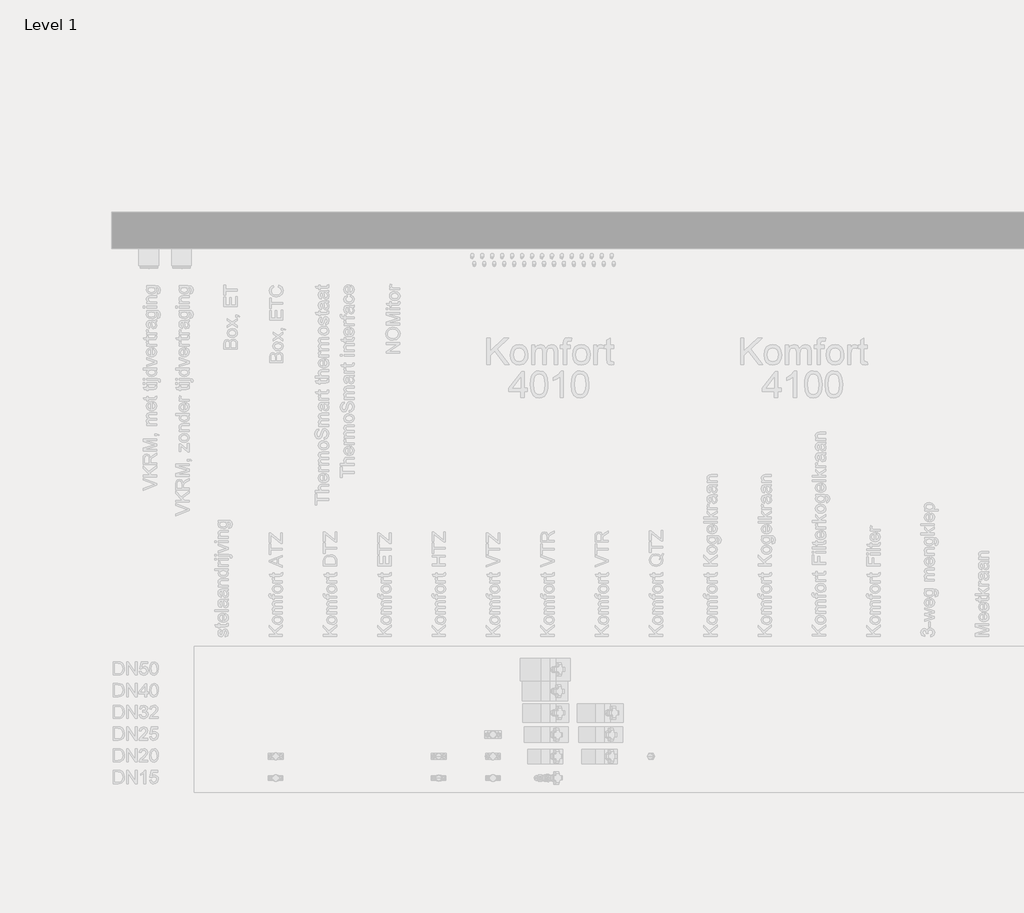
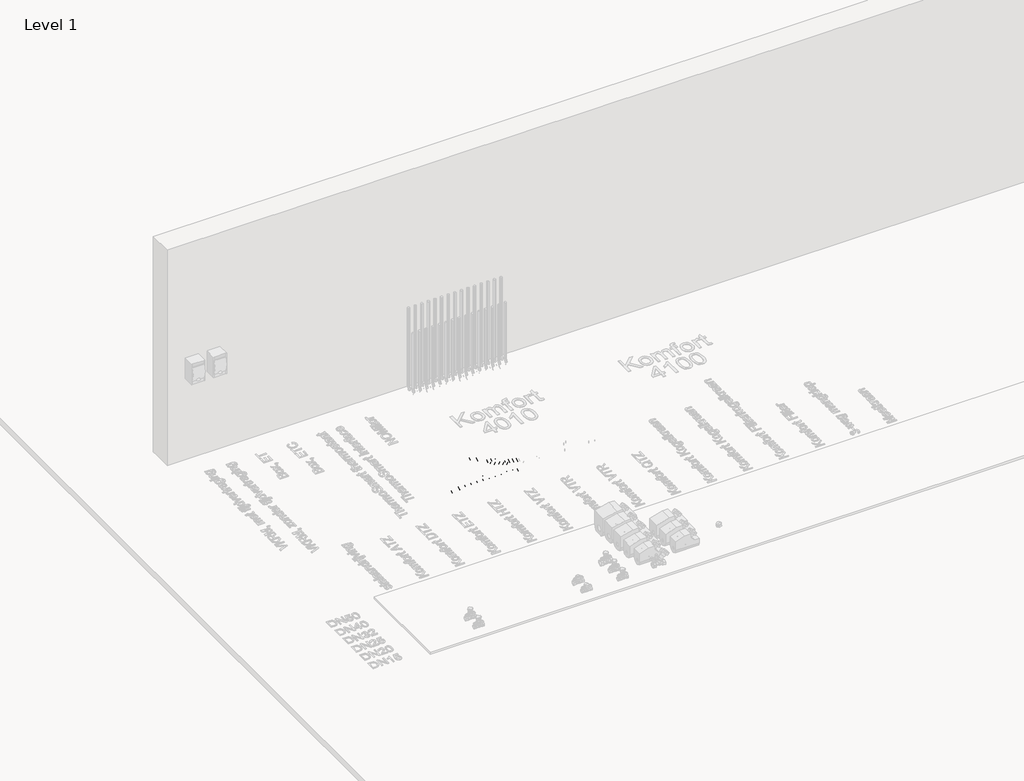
# One storey, part 2 of 34: 37 pipe segments, 24 pipe fittings.
"""IFC4 building model written with IfcOpenShell, lengths in millimetres."""

from ifc_helpers import new_model, si_unit, point, frame, frame_2d, origin, place, context, project, spatial, circle_curve, trimmed, segment, composite_curve, outline, extrude, transform, mapped, element, save
from components import comfort_pipe_plus_56b5b84a, comfort_pipe_plus_f781b332, comfort_pipe_plus_8c37c2e0, comfort_pipe_plus_1347b288, comfort_pipe_plus_f00eb310, comfort_pipe_plus_6c5c0cc0, comfort_pipe_plus_d926dcd2, comfort_pipe_plus_850c115f, comfort_pipe_plus_079da7db, comfort_pipe_plus_1f8f520a, comfort_pipe_plus_755e7ea2, comfort_pipe_plus_4085d028, comfort_pipe_plus_581880cc

model = new_model("IFC4")

# Units and contexts
model_context = context("Model", 3, world=origin())
ifc_project = project(units=[si_unit("LENGTHUNIT", "METRE", prefix="MILLI")], contexts=[model_context])

# Site, building, storey
site = spatial("IfcSite", under=ifc_project)
building = spatial("IfcBuilding", under=site)
storey = spatial("IfcBuildingStorey", under=building, Name="Level 1", Elevation=0.0)

# Pipe fittings
placement = place(None, origin())
comfort_pipe_plus_shape = comfort_pipe_plus_56b5b84a(model_context)
element("IfcPipeFitting", 1, ObjectType="400_5-_Uponor_curved_Elbow : Comfort pipe PLUS", at=placement, inside=storey, context=model_context, shape_type="MappedRepresentation", body=[
    mapped(comfort_pipe_plus_shape, transform((-15605.7349522, 6355.7502784, -40.0), x_axis=(0.0, 1.0, 0.0), y_axis=(-1.0, 0.0, 0.0), z_axis=(0.0, 0.0, 1.0))),
])
element("IfcPipeFitting", 2, ObjectType="400_5-_Uponor_curved_Elbow : Comfort pipe PLUS", at=placement, inside=storey, context=model_context, shape_type="MappedRepresentation", body=[
    mapped(comfort_pipe_plus_shape, transform((-15279.4849522, 6605.7502784, -40.0), x_axis=(0.0, -1.0, 0.0), y_axis=(1.0, 0.0, 0.0), z_axis=(0.0, 0.0, 1.0))),
])
comfort_pipe_plus_2_shape = comfort_pipe_plus_f781b332(model_context)
element("IfcPipeFitting", 3, ObjectType="400_5-_Uponor_curved_Elbow : Comfort pipe PLUS", at=placement, inside=storey, context=model_context, shape_type="MappedRepresentation", body=[
    mapped(comfort_pipe_plus_2_shape, transform((-15005.7349522, 6355.7502784, -40.0), x_axis=(0.0, 1.0, 0.0), y_axis=(-1.0, 0.0, 0.0), z_axis=(0.0, 0.0, 1.0))),
])
comfort_pipe_plus_3_shape = comfort_pipe_plus_8c37c2e0(model_context)
element("IfcPipeFitting", 4, ObjectType="400_5-_Uponor_curved_Elbow : Comfort pipe PLUS", at=placement, inside=storey, context=model_context, shape_type="MappedRepresentation", body=[
    mapped(comfort_pipe_plus_3_shape, transform((-15055.7349522, 6355.7502784, -40.0), x_axis=(0.0, 1.0, 0.0), y_axis=(-1.0, 0.0, 0.0), z_axis=(0.0, 0.0, 1.0))),
])
comfort_pipe_plus_4_shape = comfort_pipe_plus_1347b288(model_context)
element("IfcPipeFitting", 5, ObjectType="400_5-_Uponor_curved_Elbow : Comfort pipe PLUS", at=placement, inside=storey, context=model_context, shape_type="MappedRepresentation", body=[
    mapped(comfort_pipe_plus_4_shape, transform((-15105.7349522, 6355.7502784, -40.0), x_axis=(0.0, 1.0, 0.0), y_axis=(-1.0, 0.0, 0.0), z_axis=(0.0, 0.0, 1.0))),
])
element("IfcPipeFitting", 6, ObjectType="400_5-_Uponor_curved_Elbow : Comfort pipe PLUS", at=placement, inside=storey, context=model_context, shape_type="MappedRepresentation", body=[
    mapped(comfort_pipe_plus_4_shape, transform((-15004.4849522, 6421.386906, -40.0), x_axis=(0.0, -1.0, 0.0), y_axis=(1.0, 0.0, 0.0), z_axis=(0.0, 0.0, 1.0))),
])
comfort_pipe_plus_5_shape = comfort_pipe_plus_f00eb310(model_context)
element("IfcPipeFitting", 7, ObjectType="400_5-_Uponor_curved_Elbow : Comfort pipe PLUS", at=placement, inside=storey, context=model_context, shape_type="MappedRepresentation", body=[
    mapped(comfort_pipe_plus_5_shape, transform((-15155.7349522, 6355.7502784, -40.0), x_axis=(0.0, 1.0, 0.0), y_axis=(-1.0, 0.0, 0.0), z_axis=(0.0, 0.0, 1.0))),
])
element("IfcPipeFitting", 8, ObjectType="400_5-_Uponor_curved_Elbow : Comfort pipe PLUS", at=placement, inside=storey, context=model_context, shape_type="MappedRepresentation", body=[
    mapped(comfort_pipe_plus_5_shape, transform((-15031.9849522, 6429.2989396, -40.0), x_axis=(0.0, -1.0, 0.0), y_axis=(1.0, 0.0, 0.0), z_axis=(0.0, 0.0, 1.0))),
])
comfort_pipe_plus_6_shape = comfort_pipe_plus_6c5c0cc0(model_context)
element("IfcPipeFitting", 9, ObjectType="400_5-_Uponor_curved_Elbow : Comfort pipe PLUS", at=placement, inside=storey, context=model_context, shape_type="MappedRepresentation", body=[
    mapped(comfort_pipe_plus_6_shape, transform((-15205.7349522, 6355.7502784, -40.0), x_axis=(0.0, 1.0, 0.0), y_axis=(-1.0, 0.0, 0.0), z_axis=(0.0, 0.0, 1.0))),
])
element("IfcPipeFitting", 10, ObjectType="400_5-_Uponor_curved_Elbow : Comfort pipe PLUS", at=placement, inside=storey, context=model_context, shape_type="MappedRepresentation", body=[
    mapped(comfort_pipe_plus_6_shape, transform((-15059.4849522, 6438.9713245, -40.0), x_axis=(0.0, -1.0, 0.0), y_axis=(1.0, 0.0, 0.0), z_axis=(0.0, 0.0, 1.0))),
])
comfort_pipe_plus_7_shape = comfort_pipe_plus_d926dcd2(model_context)
element("IfcPipeFitting", 11, ObjectType="400_5-_Uponor_curved_Elbow : Comfort pipe PLUS", at=placement, inside=storey, context=model_context, shape_type="MappedRepresentation", body=[
    mapped(comfort_pipe_plus_7_shape, transform((-15255.7349522, 6355.7502784, -40.0), x_axis=(0.0, 1.0, 0.0), y_axis=(-1.0, 0.0, 0.0), z_axis=(0.0, 0.0, 1.0))),
])
element("IfcPipeFitting", 12, ObjectType="400_5-_Uponor_curved_Elbow : Comfort pipe PLUS", at=placement, inside=storey, context=model_context, shape_type="MappedRepresentation", body=[
    mapped(comfort_pipe_plus_7_shape, transform((-15086.9849522, 6450.516872, -40.0), x_axis=(0.0, -1.0, 0.0), y_axis=(1.0, 0.0, 0.0), z_axis=(0.0, 0.0, 1.0))),
])
comfort_pipe_plus_8_shape = comfort_pipe_plus_850c115f(model_context)
element("IfcPipeFitting", 13, ObjectType="400_5-_Uponor_curved_Elbow : Comfort pipe PLUS", at=placement, inside=storey, context=model_context, shape_type="MappedRepresentation", body=[
    mapped(comfort_pipe_plus_8_shape, transform((-15305.7349522, 6355.7502784, -40.0), x_axis=(0.0, 1.0, 0.0), y_axis=(-1.0, 0.0, 0.0), z_axis=(0.0, 0.0, 1.0))),
])
element("IfcPipeFitting", 14, ObjectType="400_5-_Uponor_curved_Elbow : Comfort pipe PLUS", at=placement, inside=storey, context=model_context, shape_type="MappedRepresentation", body=[
    mapped(comfort_pipe_plus_8_shape, transform((-15114.4849522, 6464.0832905, -40.0), x_axis=(0.0, -1.0, 0.0), y_axis=(1.0, 0.0, 0.0), z_axis=(0.0, 0.0, 1.0))),
])
comfort_pipe_plus_9_shape = comfort_pipe_plus_079da7db(model_context)
element("IfcPipeFitting", 15, ObjectType="400_5-_Uponor_curved_Elbow : Comfort pipe PLUS", at=placement, inside=storey, context=model_context, shape_type="MappedRepresentation", body=[
    mapped(comfort_pipe_plus_9_shape, transform((-15355.7349522, 6355.7502784, -40.0), x_axis=(0.0, 1.0, 0.0), y_axis=(-1.0, 0.0, 0.0), z_axis=(0.0, 0.0, 1.0))),
])
element("IfcPipeFitting", 16, ObjectType="400_5-_Uponor_curved_Elbow : Comfort pipe PLUS", at=placement, inside=storey, context=model_context, shape_type="MappedRepresentation", body=[
    mapped(comfort_pipe_plus_9_shape, transform((-15141.9849522, 6479.8647962, -40.0), x_axis=(0.0, -1.0, 0.0), y_axis=(1.0, 0.0, 0.0), z_axis=(0.0, 0.0, 1.0))),
])
comfort_pipe_plus_10_shape = comfort_pipe_plus_1f8f520a(model_context)
element("IfcPipeFitting", 17, ObjectType="400_5-_Uponor_curved_Elbow : Comfort pipe PLUS", at=placement, inside=storey, context=model_context, shape_type="MappedRepresentation", body=[
    mapped(comfort_pipe_plus_10_shape, transform((-15405.7349522, 6355.7502784, -40.0), x_axis=(0.0, 1.0, 0.0), y_axis=(-1.0, 0.0, 0.0), z_axis=(0.0, 0.0, 1.0))),
])
element("IfcPipeFitting", 18, ObjectType="400_5-_Uponor_curved_Elbow : Comfort pipe PLUS", at=placement, inside=storey, context=model_context, shape_type="MappedRepresentation", body=[
    mapped(comfort_pipe_plus_10_shape, transform((-15169.4849522, 6498.1201645, -40.0), x_axis=(0.0, -1.0, 0.0), y_axis=(1.0, 0.0, 0.0), z_axis=(0.0, 0.0, 1.0))),
])
comfort_pipe_plus_11_shape = comfort_pipe_plus_755e7ea2(model_context)
element("IfcPipeFitting", 19, ObjectType="400_5-_Uponor_curved_Elbow : Comfort pipe PLUS", at=placement, inside=storey, context=model_context, shape_type="MappedRepresentation", body=[
    mapped(comfort_pipe_plus_11_shape, transform((-15455.7349522, 6355.7502784, -40.0), x_axis=(0.0, 1.0, 0.0), y_axis=(-1.0, 0.0, 0.0), z_axis=(0.0, 0.0, 1.0))),
])
element("IfcPipeFitting", 20, ObjectType="400_5-_Uponor_curved_Elbow : Comfort pipe PLUS", at=placement, inside=storey, context=model_context, shape_type="MappedRepresentation", body=[
    mapped(comfort_pipe_plus_11_shape, transform((-15196.9849522, 6519.2020082, -40.0), x_axis=(0.0, -1.0, 0.0), y_axis=(1.0, 0.0, 0.0), z_axis=(0.0, 0.0, 1.0))),
])
comfort_pipe_plus_12_shape = comfort_pipe_plus_4085d028(model_context)
element("IfcPipeFitting", 21, ObjectType="400_5-_Uponor_curved_Elbow : Comfort pipe PLUS", at=placement, inside=storey, context=model_context, shape_type="MappedRepresentation", body=[
    mapped(comfort_pipe_plus_12_shape, transform((-15505.7349522, 6355.7502784, -40.0), x_axis=(0.0, 1.0, 0.0), y_axis=(-1.0, 0.0, 0.0), z_axis=(0.0, 0.0, 1.0))),
])
element("IfcPipeFitting", 22, ObjectType="400_5-_Uponor_curved_Elbow : Comfort pipe PLUS", at=placement, inside=storey, context=model_context, shape_type="MappedRepresentation", body=[
    mapped(comfort_pipe_plus_12_shape, transform((-15224.4849522, 6543.6070322, -40.0), x_axis=(0.0, -1.0, 0.0), y_axis=(1.0, 0.0, 0.0), z_axis=(0.0, 0.0, 1.0))),
])
comfort_pipe_plus_13_shape = comfort_pipe_plus_581880cc(model_context)
element("IfcPipeFitting", 23, ObjectType="400_5-_Uponor_curved_Elbow : Comfort pipe PLUS", at=placement, inside=storey, context=model_context, shape_type="MappedRepresentation", body=[
    mapped(comfort_pipe_plus_13_shape, transform((-15555.7349522, 6355.7502784, -40.0), x_axis=(0.0, 1.0, 0.0), y_axis=(-1.0, 0.0, 0.0), z_axis=(0.0, 0.0, 1.0))),
])
element("IfcPipeFitting", 24, ObjectType="400_5-_Uponor_curved_Elbow : Comfort pipe PLUS", at=placement, inside=storey, context=model_context, shape_type="MappedRepresentation", body=[
    mapped(comfort_pipe_plus_13_shape, transform((-15251.9849522, 6572.0690789, -40.0), x_axis=(0.0, -1.0, 0.0), y_axis=(1.0, 0.0, 0.0), z_axis=(0.0, 0.0, 1.0))),
])

# Pipe segments
element("IfcPipeSegment", 25, ObjectType="Uponor Comfort Pipe PLUS / VVL", at=placement, inside=storey, context=model_context, shape_type="SweptSolid", body=[
    extrude(outline(composite_curve([segment(trimmed(circle_curve(frame_2d((-40.0, -14866.9849522)), 8.5), [point((-40.0, -14875.4849522))], [point((-48.5, -14866.9849522))], False, "CARTESIAN"), True, "CONTINUOUS"), segment(trimmed(circle_curve(frame_2d((-40.0, -14866.9849522)), 8.5), [point((-48.5, -14866.9849522))], [point((-40.0, -14858.4849522))], False, "CARTESIAN"), True, "CONTINUOUS"), segment(trimmed(circle_curve(frame_2d((-40.0, -14866.9849522)), 8.5), [point((-40.0, -14858.4849522))], [point((-31.5, -14866.9849522))], False, "CARTESIAN"), True, "CONTINUOUS"), segment(trimmed(circle_curve(frame_2d((-40.0, -14866.9849522)), 8.5), [point((-31.5, -14866.9849522))], [point((-40.0, -14875.4849522))], False, "CARTESIAN"), True, "CONTINUOUS")], self_intersect=False)), frame((0.0, 6413.6893669, 0.0), z_axis=(0.0, 1.0, 0.0), x_axis=(0.0, 0.0, 1.0)), (0.0, 0.0, 1.0), 292.0609115),
])
element("IfcPipeSegment", 26, ObjectType="Uponor Comfort Pipe PLUS / VVL", at=placement, inside=storey, context=model_context, shape_type="SweptSolid", body=[
    extrude(outline(composite_curve([segment(trimmed(circle_curve(frame_2d((-40.0, -14811.9849522)), 8.5), [point((-40.0, -14820.4849522))], [point((-48.5, -14811.9849522))], False, "CARTESIAN"), True, "CONTINUOUS"), segment(trimmed(circle_curve(frame_2d((-40.0, -14811.9849522)), 8.5), [point((-48.5, -14811.9849522))], [point((-40.0, -14803.4849522))], False, "CARTESIAN"), True, "CONTINUOUS"), segment(trimmed(circle_curve(frame_2d((-40.0, -14811.9849522)), 8.5), [point((-40.0, -14803.4849522))], [point((-31.5, -14811.9849522))], False, "CARTESIAN"), True, "CONTINUOUS"), segment(trimmed(circle_curve(frame_2d((-40.0, -14811.9849522)), 8.5), [point((-31.5, -14811.9849522))], [point((-40.0, -14820.4849522))], False, "CARTESIAN"), True, "CONTINUOUS")], self_intersect=False)), frame((0.0, 6440.0653321, 0.0), z_axis=(0.0, 1.0, 0.0), x_axis=(0.0, 0.0, 1.0)), (0.0, 0.0, 1.0), 265.6849463),
])
element("IfcPipeSegment", 27, ObjectType="Uponor Comfort Pipe PLUS / VVL", at=placement, inside=storey, context=model_context, shape_type="SweptSolid", body=[
    extrude(outline(composite_curve([segment(trimmed(circle_curve(frame_2d((-40.0, -14756.9849522)), 8.5), [point((-40.0, -14765.4849522))], [point((-48.5, -14756.9849522))], False, "CARTESIAN"), True, "CONTINUOUS"), segment(trimmed(circle_curve(frame_2d((-40.0, -14756.9849522)), 8.5), [point((-48.5, -14756.9849522))], [point((-40.0, -14748.4849522))], False, "CARTESIAN"), True, "CONTINUOUS"), segment(trimmed(circle_curve(frame_2d((-40.0, -14756.9849522)), 8.5), [point((-40.0, -14748.4849522))], [point((-31.5, -14756.9849522))], False, "CARTESIAN"), True, "CONTINUOUS"), segment(trimmed(circle_curve(frame_2d((-40.0, -14756.9849522)), 8.5), [point((-31.5, -14756.9849522))], [point((-40.0, -14765.4849522))], False, "CARTESIAN"), True, "CONTINUOUS")], self_intersect=False)), frame((0.0, 6459.4303166, 0.0), z_axis=(0.0, 1.0, 0.0), x_axis=(0.0, 0.0, 1.0)), (0.0, 0.0, 1.0), 246.3199618),
])
element("IfcPipeSegment", 28, ObjectType="Uponor Comfort Pipe PLUS / VVL", at=placement, inside=storey, context=model_context, shape_type="SweptSolid", body=[
    extrude(outline(composite_curve([segment(trimmed(circle_curve(frame_2d((-40.0, -14701.9849522)), 8.5), [point((-40.0, -14710.4849522))], [point((-48.5, -14701.9849522))], False, "CARTESIAN"), True, "CONTINUOUS"), segment(trimmed(circle_curve(frame_2d((-40.0, -14701.9849522)), 8.5), [point((-48.5, -14701.9849522))], [point((-40.0, -14693.4849522))], False, "CARTESIAN"), True, "CONTINUOUS"), segment(trimmed(circle_curve(frame_2d((-40.0, -14701.9849522)), 8.5), [point((-40.0, -14693.4849522))], [point((-31.5, -14701.9849522))], False, "CARTESIAN"), True, "CONTINUOUS"), segment(trimmed(circle_curve(frame_2d((-40.0, -14701.9849522)), 8.5), [point((-31.5, -14701.9849522))], [point((-40.0, -14710.4849522))], False, "CARTESIAN"), True, "CONTINUOUS")], self_intersect=False)), frame((0.0, 6479.6785333, 0.0), z_axis=(0.0, 1.0, 0.0), x_axis=(0.0, 0.0, 1.0)), (0.0, 0.0, 1.0), 226.0717451),
])
element("IfcPipeSegment", 29, ObjectType="Uponor Comfort Pipe PLUS / VVL", at=placement, inside=storey, context=model_context, shape_type="SweptSolid", body=[
    extrude(outline(composite_curve([segment(trimmed(circle_curve(frame_2d((-40.0, -14646.9849522)), 8.5), [point((-40.0, -14655.4849522))], [point((-48.5, -14646.9849522))], False, "CARTESIAN"), True, "CONTINUOUS"), segment(trimmed(circle_curve(frame_2d((-40.0, -14646.9849522)), 8.5), [point((-48.5, -14646.9849522))], [point((-40.0, -14638.4849522))], False, "CARTESIAN"), True, "CONTINUOUS"), segment(trimmed(circle_curve(frame_2d((-40.0, -14646.9849522)), 8.5), [point((-40.0, -14638.4849522))], [point((-31.5, -14646.9849522))], False, "CARTESIAN"), True, "CONTINUOUS"), segment(trimmed(circle_curve(frame_2d((-40.0, -14646.9849522)), 8.5), [point((-31.5, -14646.9849522))], [point((-40.0, -14655.4849522))], False, "CARTESIAN"), True, "CONTINUOUS")], self_intersect=False)), frame((0.0, 6504.8821347, 0.0), z_axis=(0.0, 1.0, 0.0), x_axis=(0.0, 0.0, 1.0)), (0.0, 0.0, 1.0), 200.8681436),
])
element("IfcPipeSegment", 30, ObjectType="Uponor Comfort Pipe PLUS / VVL", at=placement, inside=storey, context=model_context, shape_type="SweptSolid", body=[
    extrude(outline(composite_curve([segment(trimmed(circle_curve(frame_2d((-40.0, -14591.9849522)), 8.5), [point((-40.0, -14600.4849522))], [point((-48.5, -14591.9849522))], False, "CARTESIAN"), True, "CONTINUOUS"), segment(trimmed(circle_curve(frame_2d((-40.0, -14591.9849522)), 8.5), [point((-48.5, -14591.9849522))], [point((-40.0, -14583.4849522))], False, "CARTESIAN"), True, "CONTINUOUS"), segment(trimmed(circle_curve(frame_2d((-40.0, -14591.9849522)), 8.5), [point((-40.0, -14583.4849522))], [point((-31.5, -14591.9849522))], False, "CARTESIAN"), True, "CONTINUOUS"), segment(trimmed(circle_curve(frame_2d((-40.0, -14591.9849522)), 8.5), [point((-31.5, -14591.9849522))], [point((-40.0, -14600.4849522))], False, "CARTESIAN"), True, "CONTINUOUS")], self_intersect=False)), frame((0.0, 6537.6644702, 0.0), z_axis=(0.0, 1.0, 0.0), x_axis=(0.0, 0.0, 1.0)), (0.0, 0.0, 1.0), 168.0858081),
])
element("IfcPipeSegment", 31, ObjectType="Uponor Comfort Pipe PLUS / VVL", at=placement, inside=storey, context=model_context, shape_type="SweptSolid", body=[
    extrude(outline(composite_curve([segment(trimmed(circle_curve(frame_2d((-40.0, -14536.9849522)), 8.5), [point((-40.0, -14545.4849522))], [point((-48.5, -14536.9849522))], False, "CARTESIAN"), True, "CONTINUOUS"), segment(trimmed(circle_curve(frame_2d((-40.0, -14536.9849522)), 8.5), [point((-48.5, -14536.9849522))], [point((-40.0, -14528.4849522))], False, "CARTESIAN"), True, "CONTINUOUS"), segment(trimmed(circle_curve(frame_2d((-40.0, -14536.9849522)), 8.5), [point((-40.0, -14528.4849522))], [point((-31.5, -14536.9849522))], False, "CARTESIAN"), True, "CONTINUOUS"), segment(trimmed(circle_curve(frame_2d((-40.0, -14536.9849522)), 8.5), [point((-31.5, -14536.9849522))], [point((-40.0, -14545.4849522))], False, "CARTESIAN"), True, "CONTINUOUS")], self_intersect=False)), frame((0.0, 6581.0303886, 0.0), z_axis=(0.0, 1.0, 0.0), x_axis=(0.0, 0.0, 1.0)), (0.0, 0.0, 1.0), 124.7198897),
])
element("IfcPipeSegment", 32, ObjectType="Uponor Comfort Pipe PLUS / VVL", at=placement, inside=storey, context=model_context, shape_type="SweptSolid", body=[
    extrude(outline(composite_curve([segment(trimmed(circle_curve(frame_2d((-40.0, -14481.9849522)), 8.5), [point((-40.0, -14473.4849522))], [point((-31.5, -14481.9849522))], False, "CARTESIAN"), True, "CONTINUOUS"), segment(trimmed(circle_curve(frame_2d((-40.0, -14481.9849522)), 8.5), [point((-31.5, -14481.9849522))], [point((-40.0, -14490.4849522))], False, "CARTESIAN"), True, "CONTINUOUS"), segment(trimmed(circle_curve(frame_2d((-40.0, -14481.9849522)), 8.5), [point((-40.0, -14490.4849522))], [point((-48.5, -14481.9849522))], False, "CARTESIAN"), True, "CONTINUOUS"), segment(trimmed(circle_curve(frame_2d((-40.0, -14481.9849522)), 8.5), [point((-48.5, -14481.9849522))], [point((-40.0, -14473.4849522))], False, "CARTESIAN"), True, "CONTINUOUS")], self_intersect=False)), frame((0.0, 6640.2990542, 0.0), z_axis=(0.0, 1.0, 0.0), x_axis=(0.0, 0.0, 1.0)), (0.0, 0.0, 1.0), 65.4512241),
])
element("IfcPipeSegment", 33, ObjectType="Uponor Comfort Pipe PLUS / VVL", at=placement, inside=storey, context=model_context, shape_type="SweptSolid", body=[
    extrude(outline(composite_curve([segment(trimmed(circle_curve(frame_2d((-40.0, -14839.4849522)), 8.5), [point((-40.0, -14847.9849522))], [point((-48.5, -14839.4849522))], False, "CARTESIAN"), True, "CONTINUOUS"), segment(trimmed(circle_curve(frame_2d((-40.0, -14839.4849522)), 8.5), [point((-48.5, -14839.4849522))], [point((-40.0, -14830.9849522))], False, "CARTESIAN"), True, "CONTINUOUS"), segment(trimmed(circle_curve(frame_2d((-40.0, -14839.4849522)), 8.5), [point((-40.0, -14830.9849522))], [point((-31.5, -14839.4849522))], False, "CARTESIAN"), True, "CONTINUOUS"), segment(trimmed(circle_curve(frame_2d((-40.0, -14839.4849522)), 8.5), [point((-31.5, -14839.4849522))], [point((-40.0, -14847.9849522))], False, "CARTESIAN"), True, "CONTINUOUS")], self_intersect=False)), frame((0.0, 6428.2847282, 0.0), z_axis=(0.0, 1.0, 0.0), x_axis=(0.0, 0.0, 1.0)), (0.0, 0.0, 1.0), 277.4655501),
])
element("IfcPipeSegment", 34, ObjectType="Uponor Comfort Pipe PLUS / VVL", at=placement, inside=storey, context=model_context, shape_type="SweptSolid", body=[
    extrude(outline(composite_curve([segment(trimmed(circle_curve(frame_2d((-40.0, -14784.4849522)), 8.5), [point((-40.0, -14792.9849522))], [point((-48.5, -14784.4849522))], False, "CARTESIAN"), True, "CONTINUOUS"), segment(trimmed(circle_curve(frame_2d((-40.0, -14784.4849522)), 8.5), [point((-48.5, -14784.4849522))], [point((-40.0, -14775.9849522))], False, "CARTESIAN"), True, "CONTINUOUS"), segment(trimmed(circle_curve(frame_2d((-40.0, -14784.4849522)), 8.5), [point((-40.0, -14775.9849522))], [point((-31.5, -14784.4849522))], False, "CARTESIAN"), True, "CONTINUOUS"), segment(trimmed(circle_curve(frame_2d((-40.0, -14784.4849522)), 8.5), [point((-31.5, -14784.4849522))], [point((-40.0, -14792.9849522))], False, "CARTESIAN"), True, "CONTINUOUS")], self_intersect=False)), frame((0.0, 6450.0301758, 0.0), z_axis=(0.0, 1.0, 0.0), x_axis=(0.0, 0.0, 1.0)), (0.0, 0.0, 1.0), 255.7201025),
])
element("IfcPipeSegment", 35, ObjectType="Uponor Comfort Pipe PLUS / VVL", at=placement, inside=storey, context=model_context, shape_type="SweptSolid", body=[
    extrude(outline(composite_curve([segment(trimmed(circle_curve(frame_2d((-40.0, -14729.4849522)), 8.5), [point((-40.0, -14737.9849522))], [point((-48.5, -14729.4849522))], False, "CARTESIAN"), True, "CONTINUOUS"), segment(trimmed(circle_curve(frame_2d((-40.0, -14729.4849522)), 8.5), [point((-48.5, -14729.4849522))], [point((-40.0, -14720.9849522))], False, "CARTESIAN"), True, "CONTINUOUS"), segment(trimmed(circle_curve(frame_2d((-40.0, -14729.4849522)), 8.5), [point((-40.0, -14720.9849522))], [point((-31.5, -14729.4849522))], False, "CARTESIAN"), True, "CONTINUOUS"), segment(trimmed(circle_curve(frame_2d((-40.0, -14729.4849522)), 8.5), [point((-31.5, -14729.4849522))], [point((-40.0, -14737.9849522))], False, "CARTESIAN"), True, "CONTINUOUS")], self_intersect=False)), frame((0.0, 6469.1255845, 0.0), z_axis=(0.0, 1.0, 0.0), x_axis=(0.0, 0.0, 1.0)), (0.0, 0.0, 1.0), 236.6246939),
])
element("IfcPipeSegment", 36, ObjectType="Uponor Comfort Pipe PLUS / VVL", at=placement, inside=storey, context=model_context, shape_type="SweptSolid", body=[
    extrude(outline(composite_curve([segment(trimmed(circle_curve(frame_2d((-40.0, -14674.4849522)), 8.5), [point((-40.0, -14682.9849522))], [point((-48.5, -14674.4849522))], False, "CARTESIAN"), True, "CONTINUOUS"), segment(trimmed(circle_curve(frame_2d((-40.0, -14674.4849522)), 8.5), [point((-48.5, -14674.4849522))], [point((-40.0, -14665.9849522))], False, "CARTESIAN"), True, "CONTINUOUS"), segment(trimmed(circle_curve(frame_2d((-40.0, -14674.4849522)), 8.5), [point((-40.0, -14665.9849522))], [point((-31.5, -14674.4849522))], False, "CARTESIAN"), True, "CONTINUOUS"), segment(trimmed(circle_curve(frame_2d((-40.0, -14674.4849522)), 8.5), [point((-31.5, -14674.4849522))], [point((-40.0, -14682.9849522))], False, "CARTESIAN"), True, "CONTINUOUS")], self_intersect=False)), frame((0.0, 6491.4890493, 0.0), z_axis=(0.0, 1.0, 0.0), x_axis=(0.0, 0.0, 1.0)), (0.0, 0.0, 1.0), 214.261229),
])
element("IfcPipeSegment", 37, ObjectType="Uponor Comfort Pipe PLUS / VVL", at=placement, inside=storey, context=model_context, shape_type="SweptSolid", body=[
    extrude(outline(composite_curve([segment(trimmed(circle_curve(frame_2d((-40.0, -14619.4849522)), 8.5), [point((-40.0, -14627.9849522))], [point((-48.5, -14619.4849522))], False, "CARTESIAN"), True, "CONTINUOUS"), segment(trimmed(circle_curve(frame_2d((-40.0, -14619.4849522)), 8.5), [point((-48.5, -14619.4849522))], [point((-40.0, -14610.9849522))], False, "CARTESIAN"), True, "CONTINUOUS"), segment(trimmed(circle_curve(frame_2d((-40.0, -14619.4849522)), 8.5), [point((-40.0, -14610.9849522))], [point((-31.5, -14619.4849522))], False, "CARTESIAN"), True, "CONTINUOUS"), segment(trimmed(circle_curve(frame_2d((-40.0, -14619.4849522)), 8.5), [point((-31.5, -14619.4849522))], [point((-40.0, -14627.9849522))], False, "CARTESIAN"), True, "CONTINUOUS")], self_intersect=False)), frame((0.0, 6520.163977, 0.0), z_axis=(0.0, 1.0, 0.0), x_axis=(0.0, 0.0, 1.0)), (0.0, 0.0, 1.0), 185.5863014),
])
element("IfcPipeSegment", 38, ObjectType="Uponor Comfort Pipe PLUS / VVL", at=placement, inside=storey, context=model_context, shape_type="SweptSolid", body=[
    extrude(outline(composite_curve([segment(trimmed(circle_curve(frame_2d((-40.0, -14564.4849522)), 8.5), [point((-40.0, -14572.9849522))], [point((-48.5, -14564.4849522))], False, "CARTESIAN"), True, "CONTINUOUS"), segment(trimmed(circle_curve(frame_2d((-40.0, -14564.4849522)), 8.5), [point((-48.5, -14564.4849522))], [point((-40.0, -14555.9849522))], False, "CARTESIAN"), True, "CONTINUOUS"), segment(trimmed(circle_curve(frame_2d((-40.0, -14564.4849522)), 8.5), [point((-40.0, -14555.9849522))], [point((-31.5, -14564.4849522))], False, "CARTESIAN"), True, "CONTINUOUS"), segment(trimmed(circle_curve(frame_2d((-40.0, -14564.4849522)), 8.5), [point((-31.5, -14564.4849522))], [point((-40.0, -14572.9849522))], False, "CARTESIAN"), True, "CONTINUOUS")], self_intersect=False)), frame((0.0, 6557.7799491, 0.0), z_axis=(0.0, 1.0, 0.0), x_axis=(0.0, 0.0, 1.0)), (0.0, 0.0, 1.0), 147.9703293),
])
element("IfcPipeSegment", 39, ObjectType="Uponor Comfort Pipe PLUS / VVL", at=placement, inside=storey, context=model_context, shape_type="SweptSolid", body=[
    extrude(outline(composite_curve([segment(trimmed(circle_curve(frame_2d((-40.0, -14509.4849522)), 8.5), [point((-40.0, -14517.9849522))], [point((-48.5, -14509.4849522))], False, "CARTESIAN"), True, "CONTINUOUS"), segment(trimmed(circle_curve(frame_2d((-40.0, -14509.4849522)), 8.5), [point((-48.5, -14509.4849522))], [point((-40.0, -14500.9849522))], False, "CARTESIAN"), True, "CONTINUOUS"), segment(trimmed(circle_curve(frame_2d((-40.0, -14509.4849522)), 8.5), [point((-40.0, -14500.9849522))], [point((-31.5, -14509.4849522))], False, "CARTESIAN"), True, "CONTINUOUS"), segment(trimmed(circle_curve(frame_2d((-40.0, -14509.4849522)), 8.5), [point((-31.5, -14509.4849522))], [point((-40.0, -14517.9849522))], False, "CARTESIAN"), True, "CONTINUOUS")], self_intersect=False)), frame((0.0, 6608.1547092, 0.0), z_axis=(0.0, 1.0, 0.0), x_axis=(0.0, 0.0, 1.0)), (0.0, 0.0, 1.0), 97.5955691),
])
element("IfcPipeSegment", 40, ObjectType="Uponor Comfort Pipe PLUS / VVL", at=placement, inside=storey, context=model_context, shape_type="SweptSolid", body=[
    extrude(outline(composite_curve([segment(trimmed(circle_curve(frame_2d((-40.0, -14855.7349522)), 8.5), [point((-40.0, -14864.2349522))], [point((-48.5, -14855.7349522))], False, "CARTESIAN"), True, "CONTINUOUS"), segment(trimmed(circle_curve(frame_2d((-40.0, -14855.7349522)), 8.5), [point((-48.5, -14855.7349522))], [point((-40.0, -14847.2349522))], False, "CARTESIAN"), True, "CONTINUOUS"), segment(trimmed(circle_curve(frame_2d((-40.0, -14855.7349522)), 8.5), [point((-40.0, -14847.2349522))], [point((-31.5, -14855.7349522))], False, "CARTESIAN"), True, "CONTINUOUS"), segment(trimmed(circle_curve(frame_2d((-40.0, -14855.7349522)), 8.5), [point((-31.5, -14855.7349522))], [point((-40.0, -14864.2349522))], False, "CARTESIAN"), True, "CONTINUOUS")], self_intersect=False)), frame((0.0, 6175.7502784, 0.0), z_axis=(0.0, 1.0, 0.0), x_axis=(0.0, 0.0, 1.0)), (0.0, 0.0, 1.0), 172.2509588),
])
element("IfcPipeSegment", 41, ObjectType="Uponor Comfort Pipe PLUS / VVL", at=placement, inside=storey, context=model_context, shape_type="SweptSolid", body=[
    extrude(outline(composite_curve([segment(trimmed(circle_curve(frame_2d((-40.0, -14755.7349522)), 8.5), [point((-40.0, -14764.2349522))], [point((-48.5, -14755.7349522))], False, "CARTESIAN"), True, "CONTINUOUS"), segment(trimmed(circle_curve(frame_2d((-40.0, -14755.7349522)), 8.5), [point((-48.5, -14755.7349522))], [point((-40.0, -14747.2349522))], False, "CARTESIAN"), True, "CONTINUOUS"), segment(trimmed(circle_curve(frame_2d((-40.0, -14755.7349522)), 8.5), [point((-40.0, -14747.2349522))], [point((-31.5, -14755.7349522))], False, "CARTESIAN"), True, "CONTINUOUS"), segment(trimmed(circle_curve(frame_2d((-40.0, -14755.7349522)), 8.5), [point((-31.5, -14755.7349522))], [point((-40.0, -14764.2349522))], False, "CARTESIAN"), True, "CONTINUOUS")], self_intersect=False)), frame((0.0, 6175.7502784, 0.0), z_axis=(0.0, 1.0, 0.0), x_axis=(0.0, 0.0, 1.0)), (0.0, 0.0, 1.0), 150.4581206),
])
element("IfcPipeSegment", 42, ObjectType="Uponor Comfort Pipe PLUS / VVL", at=placement, inside=storey, context=model_context, shape_type="SweptSolid", body=[
    extrude(outline(composite_curve([segment(trimmed(circle_curve(frame_2d((-40.0, -14655.7349522)), 8.5), [point((-40.0, -14664.2349522))], [point((-48.5, -14655.7349522))], False, "CARTESIAN"), True, "CONTINUOUS"), segment(trimmed(circle_curve(frame_2d((-40.0, -14655.7349522)), 8.5), [point((-48.5, -14655.7349522))], [point((-40.0, -14647.2349522))], False, "CARTESIAN"), True, "CONTINUOUS"), segment(trimmed(circle_curve(frame_2d((-40.0, -14655.7349522)), 8.5), [point((-40.0, -14647.2349522))], [point((-31.5, -14655.7349522))], False, "CARTESIAN"), True, "CONTINUOUS"), segment(trimmed(circle_curve(frame_2d((-40.0, -14655.7349522)), 8.5), [point((-31.5, -14655.7349522))], [point((-40.0, -14664.2349522))], False, "CARTESIAN"), True, "CONTINUOUS")], self_intersect=False)), frame((0.0, 6175.7502784, 0.0), z_axis=(0.0, 1.0, 0.0), x_axis=(0.0, 0.0, 1.0)), (0.0, 0.0, 1.0), 141.9565894),
])
element("IfcPipeSegment", 43, ObjectType="Uponor Comfort Pipe PLUS / VVL", at=placement, inside=storey, context=model_context, shape_type="SweptSolid", body=[
    extrude(outline(composite_curve([segment(trimmed(circle_curve(frame_2d((-40.0, -15605.7349522)), 8.5), [point((-40.0, -15614.2349522))], [point((-48.5, -15605.7349522))], False, "CARTESIAN"), True, "CONTINUOUS"), segment(trimmed(circle_curve(frame_2d((-40.0, -15605.7349522)), 8.5), [point((-48.5, -15605.7349522))], [point((-40.0, -15597.2349522))], False, "CARTESIAN"), True, "CONTINUOUS"), segment(trimmed(circle_curve(frame_2d((-40.0, -15605.7349522)), 8.5), [point((-40.0, -15597.2349522))], [point((-31.5, -15605.7349522))], False, "CARTESIAN"), True, "CONTINUOUS"), segment(trimmed(circle_curve(frame_2d((-40.0, -15605.7349522)), 8.5), [point((-31.5, -15605.7349522))], [point((-40.0, -15614.2349522))], False, "CARTESIAN"), True, "CONTINUOUS")], self_intersect=False)), frame((0.0, 6175.7502784, 0.0), z_axis=(0.0, 1.0, 0.0), x_axis=(0.0, 0.0, 1.0)), (0.0, 0.0, 1.0), 145.4512241),
])
element("IfcPipeSegment", 44, ObjectType="Uponor Comfort Pipe PLUS / VVL", at=placement, inside=storey, context=model_context, shape_type="SweptSolid", body=[
    extrude(outline(composite_curve([segment(trimmed(circle_curve(frame_2d((-40.0, -15055.7349522)), 8.5), [point((-40.0, -15064.2349522))], [point((-48.5, -15055.7349522))], False, "CARTESIAN"), True, "CONTINUOUS"), segment(trimmed(circle_curve(frame_2d((-40.0, -15055.7349522)), 8.5), [point((-48.5, -15055.7349522))], [point((-40.0, -15047.2349522))], False, "CARTESIAN"), True, "CONTINUOUS"), segment(trimmed(circle_curve(frame_2d((-40.0, -15055.7349522)), 8.5), [point((-40.0, -15047.2349522))], [point((-31.5, -15055.7349522))], False, "CARTESIAN"), True, "CONTINUOUS"), segment(trimmed(circle_curve(frame_2d((-40.0, -15055.7349522)), 8.5), [point((-31.5, -15055.7349522))], [point((-40.0, -15064.2349522))], False, "CARTESIAN"), True, "CONTINUOUS")], self_intersect=False)), frame((0.0, 6175.7502784, 0.0), z_axis=(0.0, 1.0, 0.0), x_axis=(0.0, 0.0, 1.0)), (0.0, 0.0, 1.0), 145.1194357),
])
element("IfcPipeSegment", 45, ObjectType="Uponor Comfort Pipe PLUS / VVL", at=placement, inside=storey, context=model_context, shape_type="SweptSolid", body=[
    extrude(outline(composite_curve([segment(trimmed(circle_curve(frame_2d((-40.0, -15155.7349522)), 8.5), [point((-40.0, -15164.2349522))], [point((-48.5, -15155.7349522))], False, "CARTESIAN"), True, "CONTINUOUS"), segment(trimmed(circle_curve(frame_2d((-40.0, -15155.7349522)), 8.5), [point((-48.5, -15155.7349522))], [point((-40.0, -15147.2349522))], False, "CARTESIAN"), True, "CONTINUOUS"), segment(trimmed(circle_curve(frame_2d((-40.0, -15155.7349522)), 8.5), [point((-40.0, -15147.2349522))], [point((-31.5, -15155.7349522))], False, "CARTESIAN"), True, "CONTINUOUS"), segment(trimmed(circle_curve(frame_2d((-40.0, -15155.7349522)), 8.5), [point((-31.5, -15155.7349522))], [point((-40.0, -15164.2349522))], False, "CARTESIAN"), True, "CONTINUOUS")], self_intersect=False)), frame((0.0, 6175.7502784, 0.0), z_axis=(0.0, 1.0, 0.0), x_axis=(0.0, 0.0, 1.0)), (0.0, 0.0, 1.0), 140.1733552),
])
element("IfcPipeSegment", 46, ObjectType="Uponor Comfort Pipe PLUS / VVL", at=placement, inside=storey, context=model_context, shape_type="SweptSolid", body=[
    extrude(outline(composite_curve([segment(trimmed(circle_curve(frame_2d((-40.0, -15255.7349522)), 8.5), [point((-40.0, -15264.2349522))], [point((-48.5, -15255.7349522))], False, "CARTESIAN"), True, "CONTINUOUS"), segment(trimmed(circle_curve(frame_2d((-40.0, -15255.7349522)), 8.5), [point((-48.5, -15255.7349522))], [point((-40.0, -15247.2349522))], False, "CARTESIAN"), True, "CONTINUOUS"), segment(trimmed(circle_curve(frame_2d((-40.0, -15255.7349522)), 8.5), [point((-40.0, -15247.2349522))], [point((-31.5, -15255.7349522))], False, "CARTESIAN"), True, "CONTINUOUS"), segment(trimmed(circle_curve(frame_2d((-40.0, -15255.7349522)), 8.5), [point((-31.5, -15255.7349522))], [point((-40.0, -15264.2349522))], False, "CARTESIAN"), True, "CONTINUOUS")], self_intersect=False)), frame((0.0, 6175.7502784, 0.0), z_axis=(0.0, 1.0, 0.0), x_axis=(0.0, 0.0, 1.0)), (0.0, 0.0, 1.0), 139.0278227),
])
element("IfcPipeSegment", 47, ObjectType="Uponor Comfort Pipe PLUS / VVL", at=placement, inside=storey, context=model_context, shape_type="SweptSolid", body=[
    extrude(outline(composite_curve([segment(trimmed(circle_curve(frame_2d((-40.0, -15355.7349522)), 8.5), [point((-40.0, -15364.2349522))], [point((-48.5, -15355.7349522))], False, "CARTESIAN"), True, "CONTINUOUS"), segment(trimmed(circle_curve(frame_2d((-40.0, -15355.7349522)), 8.5), [point((-48.5, -15355.7349522))], [point((-40.0, -15347.2349522))], False, "CARTESIAN"), True, "CONTINUOUS"), segment(trimmed(circle_curve(frame_2d((-40.0, -15355.7349522)), 8.5), [point((-40.0, -15347.2349522))], [point((-31.5, -15355.7349522))], False, "CARTESIAN"), True, "CONTINUOUS"), segment(trimmed(circle_curve(frame_2d((-40.0, -15355.7349522)), 8.5), [point((-31.5, -15355.7349522))], [point((-40.0, -15364.2349522))], False, "CARTESIAN"), True, "CONTINUOUS")], self_intersect=False)), frame((0.0, 6175.7502784, 0.0), z_axis=(0.0, 1.0, 0.0), x_axis=(0.0, 0.0, 1.0)), (0.0, 0.0, 1.0), 139.7008192),
])
element("IfcPipeSegment", 48, ObjectType="Uponor Comfort Pipe PLUS / VVL", at=placement, inside=storey, context=model_context, shape_type="SweptSolid", body=[
    extrude(outline(composite_curve([segment(trimmed(circle_curve(frame_2d((-40.0, -15455.7349522)), 8.5), [point((-40.0, -15464.2349522))], [point((-48.5, -15455.7349522))], False, "CARTESIAN"), True, "CONTINUOUS"), segment(trimmed(circle_curve(frame_2d((-40.0, -15455.7349522)), 8.5), [point((-48.5, -15455.7349522))], [point((-40.0, -15447.2349522))], False, "CARTESIAN"), True, "CONTINUOUS"), segment(trimmed(circle_curve(frame_2d((-40.0, -15455.7349522)), 8.5), [point((-40.0, -15447.2349522))], [point((-31.5, -15455.7349522))], False, "CARTESIAN"), True, "CONTINUOUS"), segment(trimmed(circle_curve(frame_2d((-40.0, -15455.7349522)), 8.5), [point((-31.5, -15455.7349522))], [point((-40.0, -15464.2349522))], False, "CARTESIAN"), True, "CONTINUOUS")], self_intersect=False)), frame((0.0, 6175.7502784, 0.0), z_axis=(0.0, 1.0, 0.0), x_axis=(0.0, 0.0, 1.0)), (0.0, 0.0, 1.0), 141.4220591),
])
element("IfcPipeSegment", 49, ObjectType="Uponor Comfort Pipe PLUS / VVL", at=placement, inside=storey, context=model_context, shape_type="SweptSolid", body=[
    extrude(outline(composite_curve([segment(trimmed(circle_curve(frame_2d((-40.0, -15555.7349522)), 8.5), [point((-40.0, -15564.2349522))], [point((-48.5, -15555.7349522))], False, "CARTESIAN"), True, "CONTINUOUS"), segment(trimmed(circle_curve(frame_2d((-40.0, -15555.7349522)), 8.5), [point((-48.5, -15555.7349522))], [point((-40.0, -15547.2349522))], False, "CARTESIAN"), True, "CONTINUOUS"), segment(trimmed(circle_curve(frame_2d((-40.0, -15555.7349522)), 8.5), [point((-40.0, -15547.2349522))], [point((-31.5, -15555.7349522))], False, "CARTESIAN"), True, "CONTINUOUS"), segment(trimmed(circle_curve(frame_2d((-40.0, -15555.7349522)), 8.5), [point((-31.5, -15555.7349522))], [point((-40.0, -15564.2349522))], False, "CARTESIAN"), True, "CONTINUOUS")], self_intersect=False)), frame((0.0, 6175.7502784, 0.0), z_axis=(0.0, 1.0, 0.0), x_axis=(0.0, 0.0, 1.0)), (0.0, 0.0, 1.0), 143.9143697),
])
element("IfcPipeSegment", 50, ObjectType="Uponor Comfort Pipe PLUS / VVL", at=placement, inside=storey, context=model_context, shape_type="SweptSolid", body=[
    extrude(outline(composite_curve([segment(trimmed(circle_curve(frame_2d((0.0, 8.5)), 8.5), [point((8.5, 8.5))], [point((0.0, 0.0))], False, "CARTESIAN"), True, "CONTINUOUS"), segment(trimmed(circle_curve(frame_2d((0.0, 8.5)), 8.5), [point((0.0, 0.0))], [point((-8.5, 8.5))], False, "CARTESIAN"), True, "CONTINUOUS"), segment(trimmed(circle_curve(frame_2d((0.0, 8.5)), 8.5), [point((-8.5, 8.5))], [point((0.0, 17.0))], False, "CARTESIAN"), True, "CONTINUOUS"), segment(trimmed(circle_curve(frame_2d((0.0, 8.5)), 8.5), [point((0.0, 17.0))], [point((8.5, 8.5))], False, "CARTESIAN"), True, "CONTINUOUS")], self_intersect=False)), frame((-15578.3117514, 6376.7642254, -31.5), z_axis=(0.7937531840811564, 0.6082399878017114, 0.0), x_axis=(0.6082399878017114, -0.7937531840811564, 0.0)), (0.0, 0.0, 1.0), 341.9244215),
])
element("IfcPipeSegment", 51, ObjectType="Uponor Comfort Pipe PLUS / VVL", at=placement, inside=storey, context=model_context, shape_type="SweptSolid", body=[
    extrude(outline(composite_curve([segment(trimmed(circle_curve(frame_2d((0.0, 8.5)), 8.5), [point((8.5, 8.5))], [point((0.0, 0.0))], False, "CARTESIAN"), True, "CONTINUOUS"), segment(trimmed(circle_curve(frame_2d((0.0, 8.5)), 8.5), [point((0.0, 0.0))], [point((-8.5, 8.5))], False, "CARTESIAN"), True, "CONTINUOUS"), segment(trimmed(circle_curve(frame_2d((0.0, 8.5)), 8.5), [point((-8.5, 8.5))], [point((0.0, 17.0))], False, "CARTESIAN"), True, "CONTINUOUS"), segment(trimmed(circle_curve(frame_2d((0.0, 8.5)), 8.5), [point((0.0, 17.0))], [point((8.5, 8.5))], False, "CARTESIAN"), True, "CONTINUOUS")], self_intersect=False)), frame((-15027.8877774, 6376.7547687, -31.5), z_axis=(0.7983579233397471, 0.6021832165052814, 0.0), x_axis=(0.6021832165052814, -0.7983579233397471, 0.0)), (0.0, 0.0, 1.0), 28.8788395),
])
element("IfcPipeSegment", 52, ObjectType="Uponor Comfort Pipe PLUS / VVL", at=placement, inside=storey, context=model_context, shape_type="SweptSolid", body=[
    extrude(outline(composite_curve([segment(trimmed(circle_curve(frame_2d((0.0, 8.5)), 8.5), [point((8.5, 8.5))], [point((0.0, 0.0))], False, "CARTESIAN"), True, "CONTINUOUS"), segment(trimmed(circle_curve(frame_2d((0.0, 8.5)), 8.5), [point((0.0, 0.0))], [point((-8.5, 8.5))], False, "CARTESIAN"), True, "CONTINUOUS"), segment(trimmed(circle_curve(frame_2d((0.0, 8.5)), 8.5), [point((-8.5, 8.5))], [point((0.0, 17.0))], False, "CARTESIAN"), True, "CONTINUOUS"), segment(trimmed(circle_curve(frame_2d((0.0, 8.5)), 8.5), [point((0.0, 17.0))], [point((8.5, 8.5))], False, "CARTESIAN"), True, "CONTINUOUS")], self_intersect=False)), frame((-15073.8123839, 6376.4444979, -31.5), z_axis=(0.8391090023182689, 0.543963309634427, 0.0), x_axis=(0.543963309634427, -0.8391090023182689, 0.0)), (0.0, 0.0, 1.0), 44.5768824),
])
element("IfcPipeSegment", 53, ObjectType="Uponor Comfort Pipe PLUS / VVL", at=placement, inside=storey, context=model_context, shape_type="SweptSolid", body=[
    extrude(outline(composite_curve([segment(trimmed(circle_curve(frame_2d((0.0, 8.5)), 8.5), [point((8.5, 8.5))], [point((0.0, 0.0))], False, "CARTESIAN"), True, "CONTINUOUS"), segment(trimmed(circle_curve(frame_2d((0.0, 8.5)), 8.5), [point((0.0, 0.0))], [point((-8.5, 8.5))], False, "CARTESIAN"), True, "CONTINUOUS"), segment(trimmed(circle_curve(frame_2d((0.0, 8.5)), 8.5), [point((-8.5, 8.5))], [point((0.0, 17.0))], False, "CARTESIAN"), True, "CONTINUOUS"), segment(trimmed(circle_curve(frame_2d((0.0, 8.5)), 8.5), [point((0.0, 17.0))], [point((8.5, 8.5))], False, "CARTESIAN"), True, "CONTINUOUS")], self_intersect=False)), frame((-15121.4985823, 6376.0980697, -31.5), z_axis=(0.8596348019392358, 0.5109090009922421, 0.0), x_axis=(0.5109090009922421, -0.8596348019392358, 0.0)), (0.0, 0.0, 1.0), 64.3031902),
])
element("IfcPipeSegment", 54, ObjectType="Uponor Comfort Pipe PLUS / VVL", at=placement, inside=storey, context=model_context, shape_type="SweptSolid", body=[
    extrude(outline(composite_curve([segment(trimmed(circle_curve(frame_2d((0.0, 8.5)), 8.5), [point((8.5000001, 8.5))], [point((0.0, 0.0))], False, "CARTESIAN"), True, "CONTINUOUS"), segment(trimmed(circle_curve(frame_2d((0.0, 8.5)), 8.5), [point((0.0, 0.0))], [point((-8.5, 8.5))], False, "CARTESIAN"), True, "CONTINUOUS"), segment(trimmed(circle_curve(frame_2d((0.0, 8.5)), 8.5), [point((-8.5, 8.5))], [point((0.0, 17.0))], False, "CARTESIAN"), True, "CONTINUOUS"), segment(trimmed(circle_curve(frame_2d((0.0, 8.5)), 8.5), [point((0.0, 17.0))], [point((8.5000001, 8.5))], False, "CARTESIAN"), True, "CONTINUOUS")], self_intersect=False)), frame((-15170.3547417, 6375.8827784, -31.5), z_axis=(0.8691386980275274, 0.49456842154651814, 0.0), x_axis=(0.49456842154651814, -0.8691386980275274, 0.0)), (0.0, 0.0, 1.0), 86.8556183),
])
element("IfcPipeSegment", 55, ObjectType="Uponor Comfort Pipe PLUS / VVL", at=placement, inside=storey, context=model_context, shape_type="SweptSolid", body=[
    extrude(outline(composite_curve([segment(trimmed(circle_curve(frame_2d((0.0, 8.5)), 8.5), [point((8.5, 8.5))], [point((0.0, 0.0))], False, "CARTESIAN"), True, "CONTINUOUS"), segment(trimmed(circle_curve(frame_2d((0.0, 8.5)), 8.5), [point((0.0, 0.0))], [point((-8.5, 8.5))], False, "CARTESIAN"), True, "CONTINUOUS"), segment(trimmed(circle_curve(frame_2d((0.0, 8.5)), 8.5), [point((-8.5, 8.5))], [point((0.0, 17.0))], False, "CARTESIAN"), True, "CONTINUOUS"), segment(trimmed(circle_curve(frame_2d((0.0, 8.5)), 8.5), [point((0.0, 17.0))], [point((8.5, 8.5))], False, "CARTESIAN"), True, "CONTINUOUS")], self_intersect=False)), frame((-15220.0105668, 6375.8123721, -31.5), z_axis=(0.8719181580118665, 0.48965163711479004, 0.0), x_axis=(0.48965163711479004, -0.8719181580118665, 0.0)), (0.0, 0.0, 1.0), 111.5944522),
])
element("IfcPipeSegment", 56, ObjectType="Uponor Comfort Pipe PLUS / VVL", at=placement, inside=storey, context=model_context, shape_type="SweptSolid", body=[
    extrude(outline(composite_curve([segment(trimmed(circle_curve(frame_2d((0.0, 8.5)), 8.5), [point((8.5, 8.5))], [point((0.0, 0.0))], False, "CARTESIAN"), True, "CONTINUOUS"), segment(trimmed(circle_curve(frame_2d((0.0, 8.5)), 8.5), [point((0.0, 0.0))], [point((-8.5, 8.5))], False, "CARTESIAN"), True, "CONTINUOUS"), segment(trimmed(circle_curve(frame_2d((0.0, 8.5)), 8.5), [point((-8.5, 8.5))], [point((0.0, 17.0))], False, "CARTESIAN"), True, "CONTINUOUS"), segment(trimmed(circle_curve(frame_2d((0.0, 8.5)), 8.5), [point((0.0, 17.0))], [point((8.5, 8.5))], False, "CARTESIAN"), True, "CONTINUOUS")], self_intersect=False)), frame((-15270.2357101, 6375.8587219, -31.5), z_axis=(0.8701041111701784, 0.4928679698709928, 0.0), x_axis=(0.4928679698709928, -0.8701041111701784, 0.0)), (0.0, 0.0, 1.0), 138.2035945),
])
element("IfcPipeSegment", 57, ObjectType="Uponor Comfort Pipe PLUS / VVL", at=placement, inside=storey, context=model_context, shape_type="SweptSolid", body=[
    extrude(outline(composite_curve([segment(trimmed(circle_curve(frame_2d((0.0, 8.5)), 8.5), [point((8.5, 8.5))], [point((0.0, 0.0))], False, "CARTESIAN"), True, "CONTINUOUS"), segment(trimmed(circle_curve(frame_2d((0.0, 8.5)), 8.5), [point((0.0, 0.0))], [point((-8.5, 8.5))], False, "CARTESIAN"), True, "CONTINUOUS"), segment(trimmed(circle_curve(frame_2d((0.0, 8.5)), 8.5), [point((-8.5, 8.5))], [point((0.0, 17.0))], False, "CARTESIAN"), True, "CONTINUOUS"), segment(trimmed(circle_curve(frame_2d((0.0, 8.5)), 8.5), [point((0.0, 17.0))], [point((8.5, 8.5))], False, "CARTESIAN"), True, "CONTINUOUS")], self_intersect=False)), frame((-15320.8847804, 6375.9861252, -31.5), z_axis=(0.8647861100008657, 0.5021404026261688, 0.0), x_axis=(0.5021404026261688, -0.8647861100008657, 0.0)), (0.0, 0.0, 1.0), 166.5725833),
])
element("IfcPipeSegment", 58, ObjectType="Uponor Comfort Pipe PLUS / VVL", at=placement, inside=storey, context=model_context, shape_type="SweptSolid", body=[
    extrude(outline(composite_curve([segment(trimmed(circle_curve(frame_2d((0.0, 8.5)), 8.5), [point((8.5, 8.5))], [point((0.0, 0.0))], False, "CARTESIAN"), True, "CONTINUOUS"), segment(trimmed(circle_curve(frame_2d((0.0, 8.5)), 8.5), [point((0.0, 0.0))], [point((-8.5, 8.5))], False, "CARTESIAN"), True, "CONTINUOUS"), segment(trimmed(circle_curve(frame_2d((0.0, 8.5)), 8.5), [point((-8.5, 8.5))], [point((0.0, 17.0))], False, "CARTESIAN"), True, "CONTINUOUS"), segment(trimmed(circle_curve(frame_2d((0.0, 8.5)), 8.5), [point((0.0, 17.0))], [point((8.5, 8.5))], False, "CARTESIAN"), True, "CONTINUOUS")], self_intersect=False)), frame((-15371.8652598, 6376.160963, -31.5), z_axis=(0.8564998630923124, 0.5161472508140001, 0.0), x_axis=(0.5161472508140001, -0.8564998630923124, 0.0)), (0.0, 0.0, 1.0), 196.7433065),
])
element("IfcPipeSegment", 59, ObjectType="Uponor Comfort Pipe PLUS / VVL", at=placement, inside=storey, context=model_context, shape_type="SweptSolid", body=[
    extrude(outline(composite_curve([segment(trimmed(circle_curve(frame_2d((0.0, 8.5)), 8.5), [point((8.5, 8.5))], [point((0.0, 0.0))], False, "CARTESIAN"), True, "CONTINUOUS"), segment(trimmed(circle_curve(frame_2d((0.0, 8.5)), 8.5), [point((0.0, 0.0))], [point((-8.5, 8.5))], False, "CARTESIAN"), True, "CONTINUOUS"), segment(trimmed(circle_curve(frame_2d((0.0, 8.5)), 8.5), [point((-8.5, 8.5))], [point((0.0, 17.0))], False, "CARTESIAN"), True, "CONTINUOUS"), segment(trimmed(circle_curve(frame_2d((0.0, 8.5)), 8.5), [point((0.0, 17.0))], [point((8.5, 8.5))], False, "CARTESIAN"), True, "CONTINUOUS")], self_intersect=False)), frame((-15423.1194772, 6376.3533926, -31.5), z_axis=(0.8454436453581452, 0.5340646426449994, 0.0), x_axis=(0.5340646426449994, -0.8454436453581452, 0.0)), (0.0, 0.0, 1.0), 228.896451),
])
element("IfcPipeSegment", 60, ObjectType="Uponor Comfort Pipe PLUS / VVL", at=placement, inside=storey, context=model_context, shape_type="SweptSolid", body=[
    extrude(outline(composite_curve([segment(trimmed(circle_curve(frame_2d((0.0, 8.5)), 8.5), [point((8.5000001, 8.5))], [point((0.0, 0.0))], False, "CARTESIAN"), True, "CONTINUOUS"), segment(trimmed(circle_curve(frame_2d((0.0, 8.5)), 8.5), [point((0.0, 0.0))], [point((-8.5, 8.5))], False, "CARTESIAN"), True, "CONTINUOUS"), segment(trimmed(circle_curve(frame_2d((0.0, 8.5)), 8.5), [point((-8.5, 8.5))], [point((0.0, 17.0))], False, "CARTESIAN"), True, "CONTINUOUS"), segment(trimmed(circle_curve(frame_2d((0.0, 8.5)), 8.5), [point((0.0, 17.0))], [point((8.5000001, 8.5))], False, "CARTESIAN"), True, "CONTINUOUS")], self_intersect=False)), frame((-15474.6150684, 6376.5363419, -31.5), z_axis=(0.8315631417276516, 0.5554302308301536, 0.0), x_axis=(0.5554302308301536, -0.8315631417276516, 0.0)), (0.0, 0.0, 1.0), 263.3717409),
])
element("IfcPipeSegment", 61, ObjectType="Uponor Comfort Pipe PLUS / VVL", at=placement, inside=storey, context=model_context, shape_type="SweptSolid", body=[
    extrude(outline(composite_curve([segment(trimmed(circle_curve(frame_2d((0.0, 8.5)), 8.5), [point((8.5, 8.5))], [point((0.0, 0.0))], False, "CARTESIAN"), True, "CONTINUOUS"), segment(trimmed(circle_curve(frame_2d((0.0, 8.5)), 8.5), [point((0.0, 0.0))], [point((-8.5, 8.5))], False, "CARTESIAN"), True, "CONTINUOUS"), segment(trimmed(circle_curve(frame_2d((0.0, 8.5)), 8.5), [point((-8.5, 8.5))], [point((0.0, 17.0))], False, "CARTESIAN"), True, "CONTINUOUS"), segment(trimmed(circle_curve(frame_2d((0.0, 8.5)), 8.5), [point((0.0, 17.0))], [point((8.5, 8.5))], False, "CARTESIAN"), True, "CONTINUOUS")], self_intersect=False)), frame((-15526.3413528, 6376.6832435, -31.5), z_axis=(0.8145513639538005, 0.5800914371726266, 0.0), x_axis=(0.5800914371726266, -0.8145513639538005, 0.0)), (0.0, 0.0, 1.0), 300.7334001),
])

save(model, "model.ifc")
